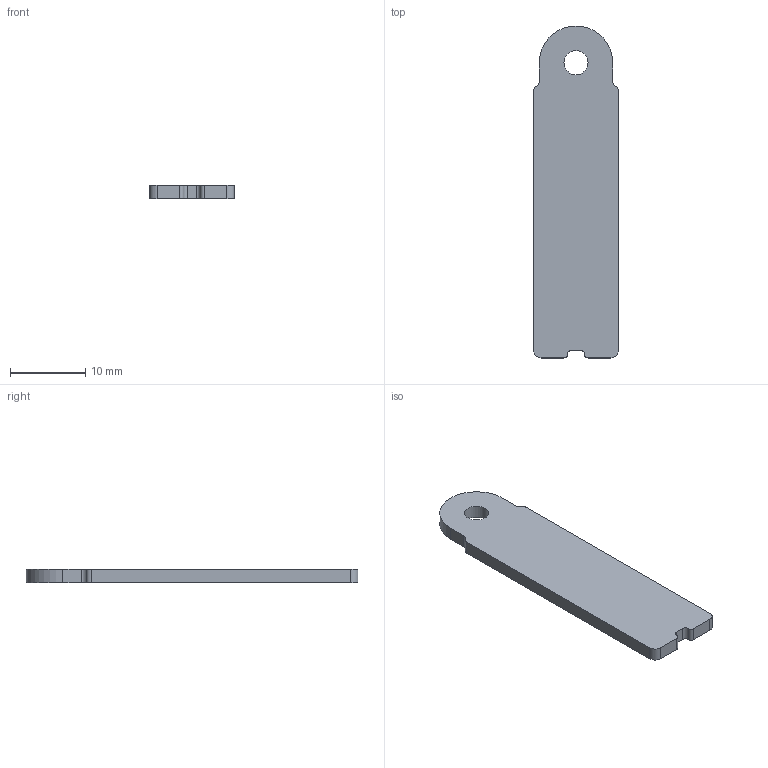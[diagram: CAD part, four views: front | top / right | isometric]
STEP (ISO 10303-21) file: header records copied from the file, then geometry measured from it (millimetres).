
FILE_DESCRIPTION(/* description */ (''),/* implementation_level */ '2;1');
FILE_NAME(/* name */ 'G:/Developer/Repos/AR-15-22lrMag/CMMG Replacement Parts/Baseplate v2.step',/* time_stamp */ '2020-03-23T02:04:03-04:00',/* author */ (''),/* organization */ (''),/* preprocessor_version */ 'ST-DEVELOPER v18',/* originating_system */ 'Autodesk Translation Framework v8.12.0.6',/* authorisation */ '');
FILE_SCHEMA (('AUTOMOTIVE_DESIGN { 1 0 10303 214 3 1 1 }'));
Length unit declared in the file: millimetre
Products named in the file (1): Baseplate
Bounding box: 11.3 x 44.25 x 1.8 mm (x, y, z)
Volume: 840.4 mm3; surface area: 1143.2 mm2
Topology: 1 solids, 1 shells, 23 faces, 63 edges, 42 vertices
Faces by surface type: cylinder 12, plane 11
Full cylindrical faces by diameter (mm): 3.2 x1
Entity records: 778 total; most frequent: DIRECTION 135, CARTESIAN_POINT 129, ORIENTED_EDGE 126, EDGE_CURVE 63, AXIS2_PLACEMENT_3D 48, VERTEX_POINT 42, LINE 39, VECTOR 39
